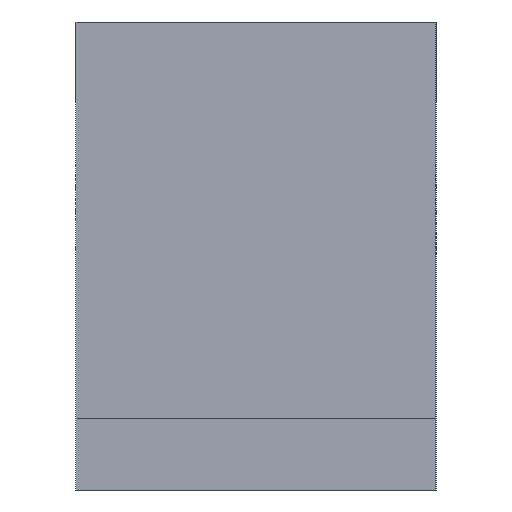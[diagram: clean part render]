
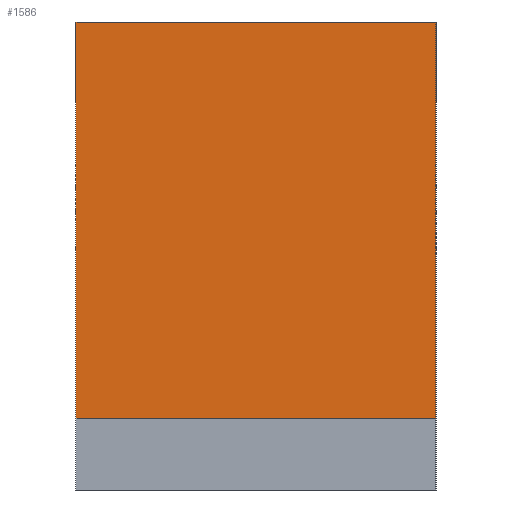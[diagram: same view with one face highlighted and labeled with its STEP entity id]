
A CAD part, left-side view. The second image highlights one B-rep face of the part: STEP entity #1586.
In plain terms, the highlighted planar face has unit normal (-1, 0, 0).
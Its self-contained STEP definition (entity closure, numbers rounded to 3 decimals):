
#44 = PLANE('',#45);
#45 = AXIS2_PLACEMENT_3D('',#46,#47,#48);
#46 = CARTESIAN_POINT('',(0.,0.,0.));
#47 = DIRECTION('',(-0.,1.,0.));
#48 = DIRECTION('',(0.,0.,1.));
#100 = PLANE('',#101);
#101 = AXIS2_PLACEMENT_3D('',#102,#103,#104);
#102 = CARTESIAN_POINT('',(0.,12.,0.));
#103 = DIRECTION('',(-0.,1.,0.));
#104 = DIRECTION('',(0.,0.,1.));
#126 = PLANE('',#127);
#127 = AXIS2_PLACEMENT_3D('',#128,#129,#130);
#128 = CARTESIAN_POINT('',(0.,-40.,2.4));
#129 = DIRECTION('',(0.,0.,1.));
#130 = DIRECTION('',(1.,0.,-0.));
#194 = VERTEX_POINT('',#195);
#195 = CARTESIAN_POINT('',(5.5,0.,2.4));
#216 = EDGE_CURVE('',#194,#217,#219,.T.);
#217 = VERTEX_POINT('',#218);
#218 = CARTESIAN_POINT('',(5.5,0.,15.6));
#219 = SURFACE_CURVE('',#220,(#224,#231),.PCURVE_S1.);
#220 = LINE('',#221,#222);
#221 = CARTESIAN_POINT('',(5.5,0.,1.15));
#222 = VECTOR('',#223,1.);
#223 = DIRECTION('',(0.,0.,1.));
#224 = PCURVE('',#44,#225);
#225 = DEFINITIONAL_REPRESENTATION('',(#226),#230);
#226 = LINE('',#227,#228);
#227 = CARTESIAN_POINT('',(1.15,5.5));
#228 = VECTOR('',#229,1.);
#229 = DIRECTION('',(1.,0.));
#230 = ( GEOMETRIC_REPRESENTATION_CONTEXT(2) 
PARAMETRIC_REPRESENTATION_CONTEXT() REPRESENTATION_CONTEXT('2D SPACE',''
  ) );
#231 = PCURVE('',#232,#237);
#232 = PLANE('',#233);
#233 = AXIS2_PLACEMENT_3D('',#234,#235,#236);
#234 = CARTESIAN_POINT('',(5.5,-30.,2.3));
#235 = DIRECTION('',(1.,0.,-0.));
#236 = DIRECTION('',(0.,0.,1.));
#237 = DEFINITIONAL_REPRESENTATION('',(#238),#242);
#238 = LINE('',#239,#240);
#239 = CARTESIAN_POINT('',(-1.15,-30.));
#240 = VECTOR('',#241,1.);
#241 = DIRECTION('',(1.,0.));
#242 = ( GEOMETRIC_REPRESENTATION_CONTEXT(2) 
PARAMETRIC_REPRESENTATION_CONTEXT() REPRESENTATION_CONTEXT('2D SPACE',''
  ) );
#260 = PLANE('',#261);
#261 = AXIS2_PLACEMENT_3D('',#262,#263,#264);
#262 = CARTESIAN_POINT('',(5.5,-30.,15.6));
#263 = DIRECTION('',(0.,0.,1.));
#264 = DIRECTION('',(1.,0.,-0.));
#666 = VERTEX_POINT('',#667);
#667 = CARTESIAN_POINT('',(5.5,12.,2.4));
#690 = EDGE_CURVE('',#194,#666,#691,.T.);
#691 = SURFACE_CURVE('',#692,(#696,#703),.PCURVE_S1.);
#692 = LINE('',#693,#694);
#693 = CARTESIAN_POINT('',(5.5,-35.,2.4));
#694 = VECTOR('',#695,1.);
#695 = DIRECTION('',(-0.,1.,0.));
#696 = PCURVE('',#126,#697);
#697 = DEFINITIONAL_REPRESENTATION('',(#698),#702);
#698 = LINE('',#699,#700);
#699 = CARTESIAN_POINT('',(5.5,5.));
#700 = VECTOR('',#701,1.);
#701 = DIRECTION('',(0.,1.));
#702 = ( GEOMETRIC_REPRESENTATION_CONTEXT(2) 
PARAMETRIC_REPRESENTATION_CONTEXT() REPRESENTATION_CONTEXT('2D SPACE',''
  ) );
#703 = PCURVE('',#232,#704);
#704 = DEFINITIONAL_REPRESENTATION('',(#705),#709);
#705 = LINE('',#706,#707);
#706 = CARTESIAN_POINT('',(0.1,5.));
#707 = VECTOR('',#708,1.);
#708 = DIRECTION('',(0.,-1.));
#709 = ( GEOMETRIC_REPRESENTATION_CONTEXT(2) 
PARAMETRIC_REPRESENTATION_CONTEXT() REPRESENTATION_CONTEXT('2D SPACE',''
  ) );
#762 = EDGE_CURVE('',#666,#763,#765,.T.);
#763 = VERTEX_POINT('',#764);
#764 = CARTESIAN_POINT('',(5.5,12.,15.6));
#765 = SURFACE_CURVE('',#766,(#770,#777),.PCURVE_S1.);
#766 = LINE('',#767,#768);
#767 = CARTESIAN_POINT('',(5.5,12.,1.15));
#768 = VECTOR('',#769,1.);
#769 = DIRECTION('',(0.,0.,1.));
#770 = PCURVE('',#100,#771);
#771 = DEFINITIONAL_REPRESENTATION('',(#772),#776);
#772 = LINE('',#773,#774);
#773 = CARTESIAN_POINT('',(1.15,5.5));
#774 = VECTOR('',#775,1.);
#775 = DIRECTION('',(1.,0.));
#776 = ( GEOMETRIC_REPRESENTATION_CONTEXT(2) 
PARAMETRIC_REPRESENTATION_CONTEXT() REPRESENTATION_CONTEXT('2D SPACE',''
  ) );
#777 = PCURVE('',#232,#778);
#778 = DEFINITIONAL_REPRESENTATION('',(#779),#783);
#779 = LINE('',#780,#781);
#780 = CARTESIAN_POINT('',(-1.15,-42.));
#781 = VECTOR('',#782,1.);
#782 = DIRECTION('',(1.,0.));
#783 = ( GEOMETRIC_REPRESENTATION_CONTEXT(2) 
PARAMETRIC_REPRESENTATION_CONTEXT() REPRESENTATION_CONTEXT('2D SPACE',''
  ) );
#1563 = EDGE_CURVE('',#217,#763,#1564,.T.);
#1564 = SURFACE_CURVE('',#1565,(#1569,#1576),.PCURVE_S1.);
#1565 = LINE('',#1566,#1567);
#1566 = CARTESIAN_POINT('',(5.5,-30.,15.6));
#1567 = VECTOR('',#1568,1.);
#1568 = DIRECTION('',(-0.,1.,0.));
#1569 = PCURVE('',#260,#1570);
#1570 = DEFINITIONAL_REPRESENTATION('',(#1571),#1575);
#1571 = LINE('',#1572,#1573);
#1572 = CARTESIAN_POINT('',(0.,0.));
#1573 = VECTOR('',#1574,1.);
#1574 = DIRECTION('',(0.,1.));
#1575 = ( GEOMETRIC_REPRESENTATION_CONTEXT(2) 
PARAMETRIC_REPRESENTATION_CONTEXT() REPRESENTATION_CONTEXT('2D SPACE',''
  ) );
#1576 = PCURVE('',#232,#1577);
#1577 = DEFINITIONAL_REPRESENTATION('',(#1578),#1582);
#1578 = LINE('',#1579,#1580);
#1579 = CARTESIAN_POINT('',(13.3,0.));
#1580 = VECTOR('',#1581,1.);
#1581 = DIRECTION('',(0.,-1.));
#1582 = ( GEOMETRIC_REPRESENTATION_CONTEXT(2) 
PARAMETRIC_REPRESENTATION_CONTEXT() REPRESENTATION_CONTEXT('2D SPACE',''
  ) );
#1586 = ADVANCED_FACE('',(#1587),#232,.F.);
#1587 = FACE_BOUND('',#1588,.F.);
#1588 = EDGE_LOOP('',(#1589,#1590,#1591,#1592));
#1589 = ORIENTED_EDGE('',*,*,#216,.F.);
#1590 = ORIENTED_EDGE('',*,*,#690,.T.);
#1591 = ORIENTED_EDGE('',*,*,#762,.T.);
#1592 = ORIENTED_EDGE('',*,*,#1563,.F.);
